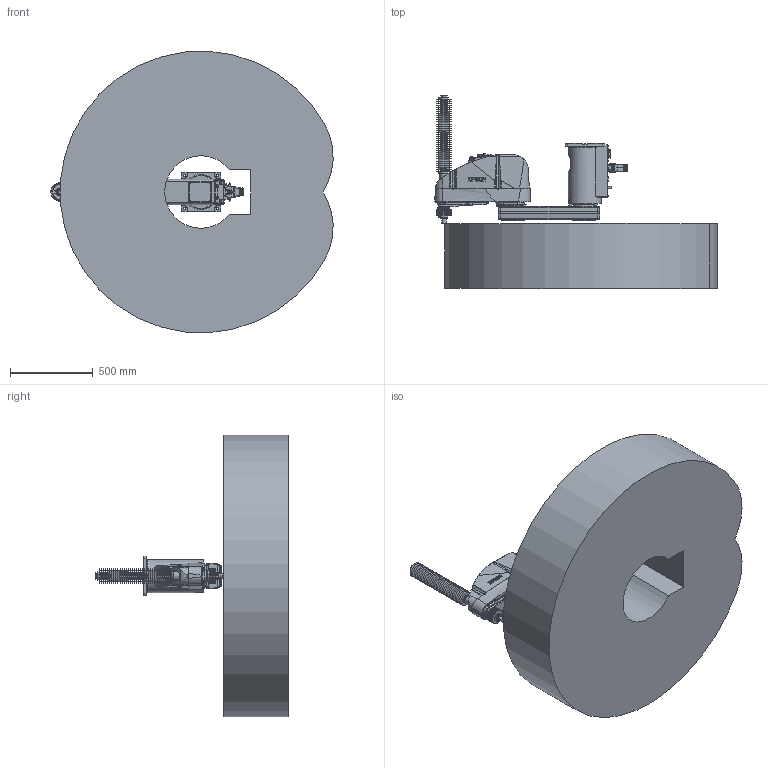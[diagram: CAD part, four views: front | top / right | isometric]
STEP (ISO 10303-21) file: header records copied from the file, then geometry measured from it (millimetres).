
FILE_DESCRIPTION( ( 'STEP AP214' ), '1' );
FILE_NAME( 'C:/Users/9607552/Desktop/GX10-B854CR_straight.stp', '2023-08-01T09:19:16', ( '' ), ( '' ), ' ', 'PARTsolutions', ' ' );
FILE_SCHEMA( ( 'AUTOMOTIVE_DESIGN { 1 0 10303 214 1 1 1 1 }' ) );
Length unit declared in the file: millimetre
Products named in the file (7): GX10-B854CRS-W; _Base cr; _Straight-B; _J1 Arm GX10-450 r/w; _J2 Arm GX10-c; _J3 Arm GX10-c (4); _GX10_20B-35_4
Assembly tree (6 placements, depth 2):
  GX10-B854CRS-W
    _Base cr
    _Straight-B
    _J1 Arm GX10-450 r/w
    _J2 Arm GX10-c
    _J3 Arm GX10-c (4)
    _GX10_20B-35_4
Bounding box: 1702.55 x 1164 x 1697.41 mm (x, y, z)
Volume: 847465982 mm3; surface area: 8941118.4 mm2
Topology: 6 solids, 6 shells, 2577 faces, 6305 edges, 4070 vertices
Faces by surface type: plane 1308, cylinder 731, cone 430, torus 70, bspline 37, sphere 1
Full cylindrical faces by diameter (mm): 1.18 x55, 2.5 x2, 3 x32, 3.242 x10, 3.3 x9, 4 x2, 4.2 x2, 4.8 x4, 5.1 x4, 5.34 x4, 5.5 x12, 6 x3, 6.2 x2, 6.647 x2, 7 x27, 7.5 x1, 8 x4, 8.5 x2, 9 x4, 10 x32, 10.5 x3, 11 x14, 12 x7, 12.25 x1, 13 x2, 14 x8, 14.25 x1, 16 x7, 18 x2, 20.4 x1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
Entity records: 96668 total; most frequent: CARTESIAN_POINT 18098, DIRECTION 12024, ORIENTED_EDGE 10988, EDGE_CURVE 5494, AXIS2_PLACEMENT_3D 4609, VERTEX_POINT 3963, EDGE_LOOP 3640, FACE_OUTER_BOUND 2924
